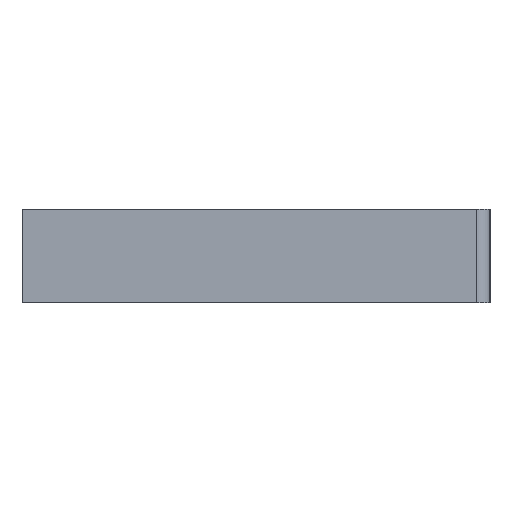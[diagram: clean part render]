
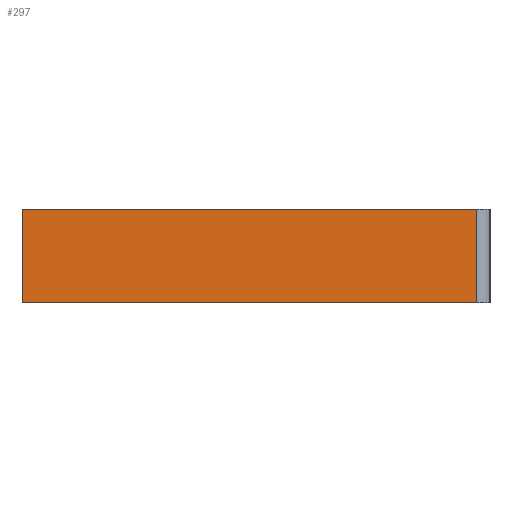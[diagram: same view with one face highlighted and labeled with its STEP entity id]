
A CAD part, left-side view. The second image highlights one B-rep face of the part: STEP entity #297.
In plain terms, the highlighted planar face has unit normal (-1, 0, 0).
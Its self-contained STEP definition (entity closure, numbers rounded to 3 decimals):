
#127 = EDGE_CURVE( '', #187, #315, #345, .T. );
#135 = EDGE_CURVE( '', #187, #169, #355, .T. );
#169 = VERTEX_POINT( '', #395 );
#187 = VERTEX_POINT( '', #413 );
#189 = EDGE_CURVE( '', #315, #237, #415, .T. );
#237 = VERTEX_POINT( '', #467 );
#271 = EDGE_CURVE( '', #169, #237, #504, .T. );
#297 = ADVANCED_FACE( '', ( #534 ), #535, .T. );
#315 = VERTEX_POINT( '', #554 );
#345 = LINE( '', #577, #578 );
#355 = LINE( '', #591, #592 );
#395 = CARTESIAN_POINT( '', ( -6., -34., 3.5 ) );
#413 = CARTESIAN_POINT( '', ( -6., 0., 3.5 ) );
#415 = LINE( '', #672, #673 );
#467 = CARTESIAN_POINT( '', ( -6., -34., -3.5 ) );
#504 = LINE( '', #796, #797 );
#534 = FACE_OUTER_BOUND( '', #835, .T. );
#535 = PLANE( '', #836 );
#554 = CARTESIAN_POINT( '', ( -6., 0., -3.5 ) );
#577 = CARTESIAN_POINT( '', ( -6., 0., 3.5 ) );
#578 = VECTOR( '', #879, 1. );
#591 = CARTESIAN_POINT( '', ( -6., 0., 3.5 ) );
#592 = VECTOR( '', #905, 1. );
#672 = CARTESIAN_POINT( '', ( -6., 0., -3.5 ) );
#673 = VECTOR( '', #965, 1. );
#796 = CARTESIAN_POINT( '', ( -6., -34., 3.5 ) );
#797 = VECTOR( '', #1059, 1. );
#835 = EDGE_LOOP( '', ( #1096, #1097, #1098, #1099 ) );
#836 = AXIS2_PLACEMENT_3D( '', #1100, #1101, #1102 );
#879 = DIRECTION( '', ( 0., 0., -1. ) );
#905 = DIRECTION( '', ( 0., -1., 0. ) );
#965 = DIRECTION( '', ( 0., -1., 0. ) );
#1059 = DIRECTION( '', ( 0., 0., -1. ) );
#1096 = ORIENTED_EDGE( '', *, *, #189, .T. );
#1097 = ORIENTED_EDGE( '', *, *, #271, .F. );
#1098 = ORIENTED_EDGE( '', *, *, #135, .F. );
#1099 = ORIENTED_EDGE( '', *, *, #127, .T. );
#1100 = CARTESIAN_POINT( '', ( -6., 0., 3.5 ) );
#1101 = DIRECTION( '', ( -1., 0., 0. ) );
#1102 = DIRECTION( '', ( 0., 1., 0. ) );
